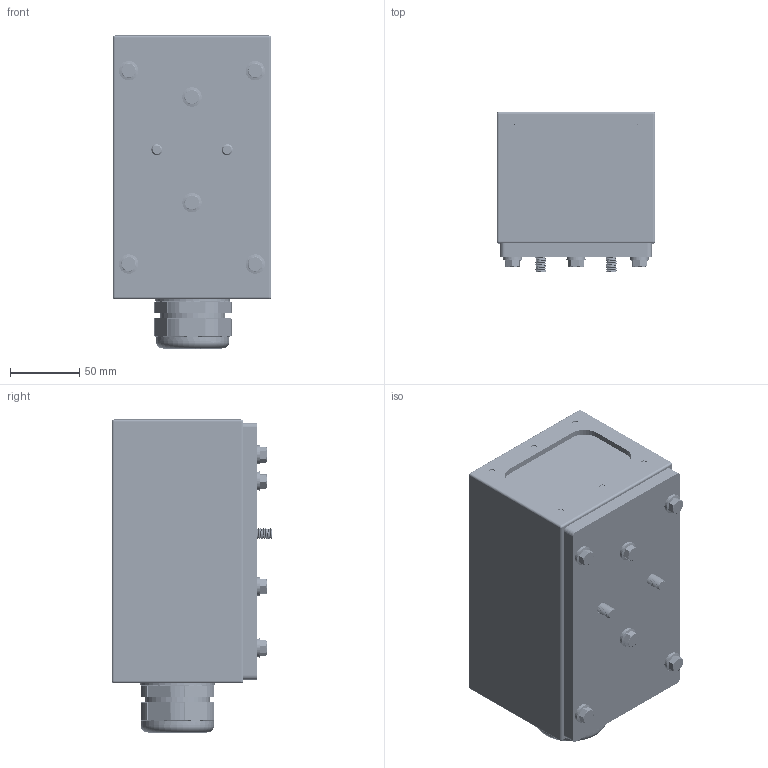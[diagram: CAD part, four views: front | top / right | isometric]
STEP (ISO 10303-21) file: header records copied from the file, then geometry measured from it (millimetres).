
FILE_DESCRIPTION (( 'STEP AP203' ), '1' );
FILE_NAME ('42S-CA.STEP', '2023-06-22T14:57:13', ( '' ), ( '' ), 'SwSTEP 2.0', 'SolidWorks 2021', '' );
FILE_SCHEMA (( 'CONFIG_CONTROL_DESIGN' ));
Length unit declared in the file: inch
Products named in the file (24): PG36-05-01-02-01; 200413; 400141; PG36-S02; 94709A417; 201803; 200460; SP-M6-1; PG36-N01; 42S-CA; 93635A318; 93625A200; IFM O3D300; 400143; 9452K15; PG36-B05; 400142; 500126; PG36-I01; 91292A272_91292A272; 200461; 800007; 800002_DEFAULT; 200412
Assembly tree (54 placements, depth 3):
  42S-CA
    200413
      200412
      SP-M6-1  x4
      800002_DEFAULT  x6
    400141
    400142
    500126
    200461
    201803
    200460
    PG36-05-01-02-01
      PG36-B05
      PG36-I01
      PG36-S02
      PG36-N01
    93625A200  x8
    9452K15  x4
    94709A417  x2
    800007  x6
    93635A318  x2
    400143  x6
    IFM O3D300
    91292A272_91292A272  x2
Bounding box: 114.3 x 115.61 x 226.09 mm (x, y, z)
Volume: 851541.4 mm3; surface area: 365488.6 mm2
Topology: 75 solids, 75 shells, 1678 faces, 4058 edges, 2613 vertices
Faces by surface type: plane 706, cylinder 522, cone 287, bspline 110, torus 38, sphere 15
Full cylindrical faces by diameter (mm): 4 x8, 4.2 x6, 5 x97, 5.7 x2, 6 x12, 6.3 x12, 6.35 x2, 6.8 x4, 8 x1, 8.3 x3, 8.382 x4, 8.5 x2, 8.731 x4, 8.75 x4, 8.8 x4, 9.5 x4, 9.7 x1, 10 x1, 10.7 x1, 10.8 x1, 10.92 x1, 12 x1, 12.1 x1, 13.5 x6, 14 x6, 17 x3, 17.1 x1, 19.05 x4, 36.5 x1, 37 x1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
Entity records: 58748 total; most frequent: CARTESIAN_POINT 37142, DIRECTION 3711, ORIENTED_EDGE 3586, EDGE_CURVE 1793, AXIS2_PLACEMENT_3D 1444, VERTEX_POINT 1228, EDGE_LOOP 1087, FACE_OUTER_BOUND 903
